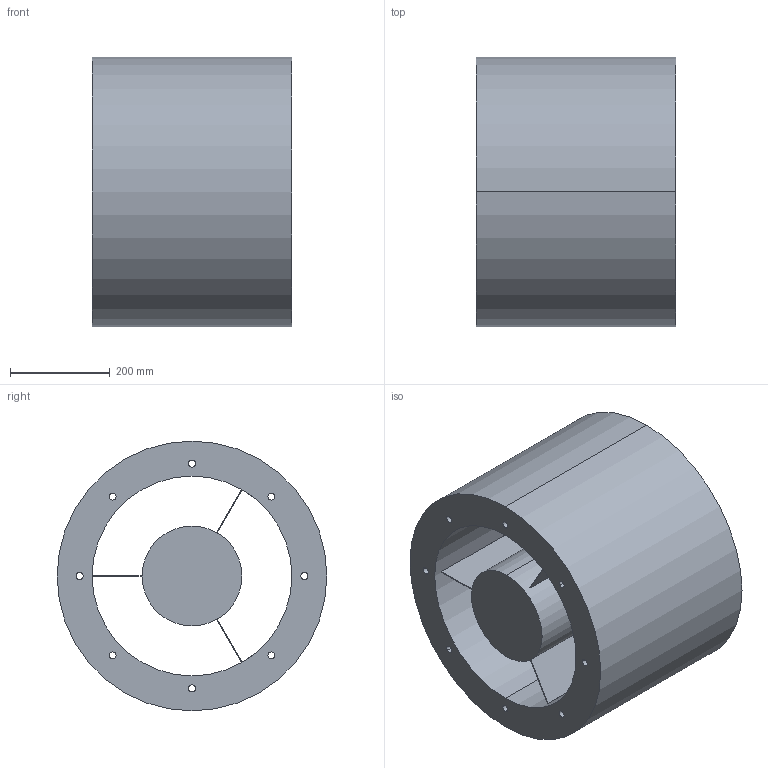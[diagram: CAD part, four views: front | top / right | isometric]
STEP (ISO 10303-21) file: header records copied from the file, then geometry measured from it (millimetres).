
FILE_DESCRIPTION(('STEP AP214'),'1');
FILE_NAME('accessory_5211813300.stp','2017-10-09T11:37:24',('TraceParts'),('TraceParts S.A.'),'Spatial InterOp 3D',' ',' ');
FILE_SCHEMA(('automotive_design'));
Length unit declared in the file: millimetre
Products named in the file (1): accessory_5211813300
Bounding box: 400 x 540 x 540 mm (x, y, z)
Volume: 51810767.1 mm3; surface area: 1948761.8 mm2
Topology: 1 solids, 1 shells, 40 faces, 107 edges, 71 vertices
Faces by surface type: cylinder 22, plane 16, torus 2
Entity records: 1664 total; most frequent: DIRECTION 250, CARTESIAN_POINT 219, ORIENTED_EDGE 214, EDGE_CURVE 107, AXIS2_PLACEMENT_3D 102, VERTEX_POINT 71, EDGE_LOOP 64, CIRCLE 61
